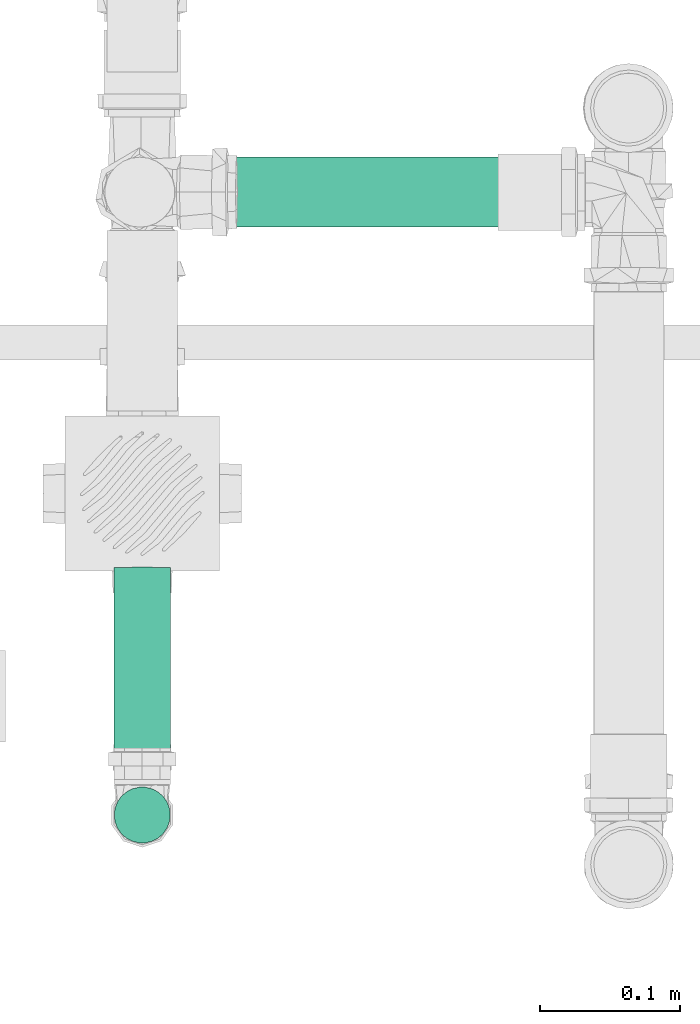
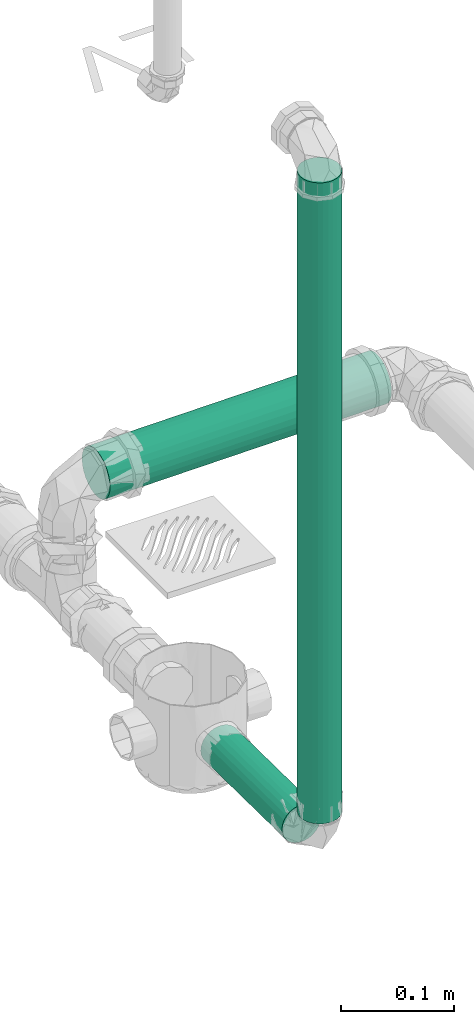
# One storey, part 224 of 589: 3 flow segments.
"""IFC2X3 building model written with IfcOpenShell, lengths in millimetres."""

import ifcopenshell
import ifcopenshell.guid

model = None  # the IFC model being written
_history = None  # IfcOwnerHistory: only IFC2X3 demands one
_inside = {}  # id of a spatial element -> (the spatial element, [elements in it])
_under = {}  # id of a project, library or spatial element -> (it, [spatial elements below it])
_declared = {}  # id of a project -> (the project, [libraries it declares])
_typed = {}  # id of a type object -> (the type object, [elements of that type])
_made_of = {}  # id of a material, layer set ... -> (it, [elements and type objects made of it])


def new_model(schema):
    """Start an empty IFC model of exactly this schema.

    Asked for "IFC4X3", IfcOpenShell would pick the latest addendum, in which some entities
    have other attributes; the version numbers below select the first issue.
    IFC2X3 requires an IfcOwnerHistory on every rooted entity: one is made here for all.
    """
    global model, _history
    if schema == "IFC4X3":
        model = ifcopenshell.file(schema_version=(4, 3, 0, 0))
    else:
        model = ifcopenshell.file(schema=schema)
    _inside.clear()
    _under.clear()
    _declared.clear()
    _typed.clear()
    _made_of.clear()
    _history = None
    if model.schema == "IFC2X3":
        org = make("IfcOrganization", Name="unknown")
        user = make(
            "IfcPersonAndOrganization",
            ThePerson=make("IfcPerson", FamilyName="unknown"),
            TheOrganization=org,
        )
        app = make(
            "IfcApplication",
            ApplicationDeveloper=org,
            Version="unknown",
            ApplicationFullName="unknown",
            ApplicationIdentifier="unknown",
        )
        _history = make(
            "IfcOwnerHistory",
            OwningUser=user,
            OwningApplication=app,
            ChangeAction="ADDED",
            CreationDate=0,
        )
    return model


def make(cls, **values):
    """One entity of the class cls with the attributes given. An attribute that is None is left unset."""
    return model.create_entity(
        cls, **{name: value for name, value in values.items() if value is not None}
    )


def entity(cls, *values):
    """Any entity or typed value of the class cls, its attributes in the order of the schema. None: left unset."""
    e = model.create_entity(cls)
    for i, value in enumerate(values):
        if value is not None:
            e[i] = value
    return e


def rooted(cls, **values):
    """An entity with a GlobalId (a new one), such as an element, a storey or a relation."""
    return make(cls, GlobalId=ifcopenshell.guid.new(), OwnerHistory=_history, **values)


def si_unit(unit_type, name, prefix=None):
    """IfcSIUnit, for example si_unit("LENGTHUNIT", "METRE", prefix="MILLI")."""
    return make("IfcSIUnit", UnitType=unit_type, Prefix=prefix, Name=name)


def converted_unit(unit_type, name, factor, base, dimensions=None, offset=None):
    """IfcConversionBasedUnit, such as the inch: factor (a typed value) times the base unit."""
    return make(
        "IfcConversionBasedUnit"
        if offset is None
        else "IfcConversionBasedUnitWithOffset",
        ConversionOffset=offset,
        Dimensions=None
        if dimensions is None
        else entity("IfcDimensionalExponents", *dimensions),
        UnitType=unit_type,
        Name=name,
        ConversionFactor=make(
            "IfcMeasureWithUnit", ValueComponent=factor, UnitComponent=base
        ),
    )


def derived_unit(unit_type, elements):
    """IfcDerivedUnit: a product of units, each with its exponent."""
    return make(
        "IfcDerivedUnit",
        Elements=[
            make("IfcDerivedUnitElement", Unit=unit, Exponent=power)
            for unit, power in elements
        ],
        UnitType=unit_type,
    )


def assignment(units):
    """IfcUnitAssignment: the units of a project."""
    return None if units is None else make("IfcUnitAssignment", Units=units)


def point(xyz):
    """IfcCartesianPoint."""
    return None if xyz is None else make("IfcCartesianPoint", Coordinates=xyz)


def direction(xyz):
    """IfcDirection."""
    return None if xyz is None else make("IfcDirection", DirectionRatios=xyz)


def frame(location, z_axis=None, x_axis=None):
    """IfcAxis2Placement3D, a coordinate frame: its origin and axes. An axis left out is left unset."""
    return make(
        "IfcAxis2Placement3D",
        Location=point(location),
        Axis=direction(z_axis),
        RefDirection=direction(x_axis),
    )


def frame_2d(location, x_axis=None):
    """IfcAxis2Placement2D, a coordinate frame in the plane: its origin and x axis."""
    return make(
        "IfcAxis2Placement2D", Location=point(location), RefDirection=direction(x_axis)
    )


def origin():
    """The frame at (0, 0, 0) with its axes left unset."""
    return frame((0.0, 0.0, 0.0))


def place(relative_to, where):
    """IfcLocalPlacement: puts the frame where relative to a parent placement (None: the world)."""
    return make(
        "IfcLocalPlacement", PlacementRelTo=relative_to, RelativePlacement=where
    )


def context(
    kind, dimensions, precision=None, world=None, true_north=None, identifier=None
):
    """IfcGeometricRepresentationContext, for example the 3D "Model" context."""
    return make(
        "IfcGeometricRepresentationContext",
        ContextIdentifier=identifier,
        ContextType=kind,
        CoordinateSpaceDimension=dimensions,
        Precision=precision,
        WorldCoordinateSystem=world,
        TrueNorth=true_north,
    )


def subcontext(parent, identifier, kind, view, scale=None):
    """IfcGeometricRepresentationSubContext, for example "Body" below "Model"."""
    return make(
        "IfcGeometricRepresentationSubContext",
        ContextIdentifier=identifier,
        ContextType=kind,
        ParentContext=parent,
        TargetScale=scale,
        TargetView=view,
    )


def project(units=None, contexts=None):
    """IfcProject with its units and contexts."""
    return rooted(
        "IfcProject",
        Name="project",
        RepresentationContexts=contexts,
        UnitsInContext=assignment(units),
    )


def spatial(cls, under=None, at=None, **own):
    """A site, building, storey or space (cls), placed at a placement, below another one or the project."""
    s = rooted(cls, ObjectPlacement=at, **own)
    if under is not None:
        _under.setdefault(under.id(), (under, []))[1].append(s)
    return s


def profile(cls, at=None, kind="AREA", **sizes):
    """A parametric profile (cls). Its sizes go by their IFC names, for example OverallWidth=200.0."""
    return make(cls, ProfileType=kind, Position=at, **sizes)


def circle(**sizes):
    """IfcCircleProfileDef."""
    return profile("IfcCircleProfileDef", **sizes)


def extrude(swept, where, along, depth):
    """IfcExtrudedAreaSolid: the profile swept, set in the frame where, extruded along a direction by depth."""
    return make(
        "IfcExtrudedAreaSolid",
        SweptArea=swept,
        Position=where,
        ExtrudedDirection=direction(along),
        Depth=depth,
    )


def shape(context_of_items, identifier, shape_type, items):
    """IfcShapeRepresentation: the items that make up one representation, for example the "Body"."""
    return make(
        "IfcShapeRepresentation",
        ContextOfItems=context_of_items,
        RepresentationIdentifier=identifier,
        RepresentationType=shape_type,
        Items=items,
    )


def made_of(thing, what):
    """Note that an element or type object is made of a material, layer set ...; save() writes the relation."""
    if what is not None:
        _made_of.setdefault(what.id(), (what, []))[1].append(thing)
    return thing


def type_object(cls, material=None, **own):
    """A type object (cls), such as IfcWallType, which elements share."""
    return made_of(rooted(cls, **own), material)


def element(
    cls,
    number,
    at=None,
    inside=None,
    cuts=None,
    type_object=None,
    material=None,
    context=None,
    identifier="Body",
    shape_type=None,
    held_by="IfcProductDefinitionShape",
    body=None,
    shapes=None,
    **own,
):
    """One element of the class cls, such as IfcWall. Its Tag is "e" and its number.

    at: its placement. inside: the storey or other place that contains it. cuts: it is an
    opening in that element (IfcRelVoidsElement). A single representation is given by context,
    identifier, shape_type and body (its items); several are given by shapes. held_by: the class
    of the entity that holds the representations. save() writes the other relations.
    """
    e = rooted(cls, Tag="e%d" % number, ObjectPlacement=at, **own)
    if body is not None:
        shapes = [shape(context, identifier, shape_type, body)]
    if shapes is not None:
        e.Representation = make(held_by, Representations=shapes)
    if inside is not None:
        _inside.setdefault(inside.id(), (inside, []))[1].append(e)
    if cuts is not None:
        rooted(
            "IfcRelVoidsElement", RelatingBuildingElement=cuts, RelatedOpeningElement=e
        )
    if type_object is not None:
        _typed.setdefault(type_object.id(), (type_object, []))[1].append(e)
    return made_of(e, material)


def aggregate(whole, parts):
    """IfcRelAggregates: a whole, such as a stair, and the parts it consists of."""
    return rooted("IfcRelAggregates", RelatingObject=whole, RelatedObjects=parts)


def save(model, path):
    """Write the relations noted so far, then the file.

    IfcRelAggregates (storeys below a building ...), IfcRelContainedInSpatialStructure (elements
    in a storey), IfcRelDefinesByType, IfcRelAssociatesMaterial and IfcRelDeclares: one each for
    every whole, place, type object, material and project.
    """
    for whole, parts in _under.values():
        aggregate(whole, parts)
    for where, things in _inside.values():
        rooted(
            "IfcRelContainedInSpatialStructure",
            RelatedElements=things,
            RelatingStructure=where,
        )
    for kind, things in _typed.values():
        rooted("IfcRelDefinesByType", RelatedObjects=things, RelatingType=kind)
    for what, things in _made_of.values():
        rooted("IfcRelAssociatesMaterial", RelatedObjects=things, RelatingMaterial=what)
    for by, libraries in _declared.values():
        rooted("IfcRelDeclares", RelatingContext=by, RelatedDefinitions=libraries)
    model.write(path)


model = new_model("IFC2X3")

# Units and contexts
model_context = context("Model", 3, precision=0.01, world=origin(), true_north=direction((6.123031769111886e-17, 1.0)))
body_context = subcontext(model_context, "Body", "Model", "MODEL_VIEW")
ifc_project = project(units=[si_unit("LENGTHUNIT", "METRE", prefix="MILLI"), si_unit("AREAUNIT", "SQUARE_METRE"), si_unit("VOLUMEUNIT", "CUBIC_METRE"), converted_unit("PLANEANGLEUNIT", "DEGREE", entity("IfcRatioMeasure", 0.017453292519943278), si_unit("PLANEANGLEUNIT", "RADIAN"), dimensions=[0, 0, 0, 0, 0, 0, 0]), si_unit("MASSUNIT", "GRAM", prefix="KILO"), derived_unit("MASSDENSITYUNIT", [(si_unit("MASSUNIT", "GRAM", prefix="KILO"), 1), (si_unit("LENGTHUNIT", "METRE"), -3)]), derived_unit("IONCONCENTRATIONUNIT", [(si_unit("MASSUNIT", "GRAM", prefix="KILO"), 1), (si_unit("LENGTHUNIT", "METRE"), -3)]), derived_unit("MOMENTOFINERTIAUNIT", [(si_unit("LENGTHUNIT", "METRE"), 4)]), si_unit("TIMEUNIT", "SECOND"), si_unit("FREQUENCYUNIT", "HERTZ"), si_unit("THERMODYNAMICTEMPERATUREUNIT", "DEGREE_CELSIUS"), derived_unit("THERMALTRANSMITTANCEUNIT", [(si_unit("MASSUNIT", "GRAM", prefix="KILO"), 1), (si_unit("THERMODYNAMICTEMPERATUREUNIT", "KELVIN"), -1), (si_unit("TIMEUNIT", "SECOND"), -3)]), derived_unit("THERMALCONDUCTANCEUNIT", [(si_unit("MASSUNIT", "GRAM", prefix="KILO"), 1), (si_unit("THERMODYNAMICTEMPERATUREUNIT", "KELVIN"), -1), (si_unit("TIMEUNIT", "SECOND"), -3), (si_unit("LENGTHUNIT", "METRE"), 1)]), derived_unit("VOLUMETRICFLOWRATEUNIT", [(si_unit("LENGTHUNIT", "METRE"), 3), (si_unit("TIMEUNIT", "SECOND"), -1)]), derived_unit("MASSFLOWRATEUNIT", [(si_unit("MASSUNIT", "GRAM", prefix="KILO"), 1), (si_unit("TIMEUNIT", "SECOND"), -1)]), derived_unit("ROTATIONALFREQUENCYUNIT", [(si_unit("TIMEUNIT", "SECOND"), -1)]), si_unit("ELECTRICCURRENTUNIT", "AMPERE"), si_unit("ELECTRICVOLTAGEUNIT", "VOLT"), si_unit("POWERUNIT", "WATT"), si_unit("FORCEUNIT", "NEWTON", prefix="KILO"), si_unit("ILLUMINANCEUNIT", "LUX"), si_unit("LUMINOUSFLUXUNIT", "LUMEN"), si_unit("LUMINOUSINTENSITYUNIT", "CANDELA"), derived_unit("USERDEFINED", [(si_unit("MASSUNIT", "GRAM", prefix="KILO"), -1), (si_unit("LENGTHUNIT", "METRE"), -2), (si_unit("TIMEUNIT", "SECOND"), 3), (si_unit("LUMINOUSFLUXUNIT", "LUMEN"), 1)]), derived_unit("USERDEFINED", [(si_unit("MASSUNIT", "GRAM", prefix="KILO"), 1), (si_unit("TIMEUNIT", "SECOND"), -3), (si_unit("LENGTHUNIT", "METRE"), 3), (si_unit("ELECTRICCURRENTUNIT", "AMPERE"), -2)]), derived_unit("SOUNDPOWERUNIT", [(si_unit("MASSUNIT", "GRAM", prefix="KILO"), 1), (si_unit("TIMEUNIT", "SECOND"), -3), (si_unit("LENGTHUNIT", "METRE"), 2)]), derived_unit("SOUNDPRESSUREUNIT", [(si_unit("MASSUNIT", "GRAM", prefix="KILO"), 1), (si_unit("LENGTHUNIT", "METRE"), -1), (si_unit("TIMEUNIT", "SECOND"), -2)]), derived_unit("LINEARVELOCITYUNIT", [(si_unit("LENGTHUNIT", "METRE"), 1), (si_unit("TIMEUNIT", "SECOND"), -1)]), si_unit("PRESSUREUNIT", "PASCAL"), derived_unit("USERDEFINED", [(si_unit("MASSUNIT", "GRAM", prefix="KILO"), 1), (si_unit("LENGTHUNIT", "METRE"), -2), (si_unit("TIMEUNIT", "SECOND"), -2)]), derived_unit("LINEARFORCEUNIT", [(si_unit("MASSUNIT", "GRAM", prefix="KILO"), 1), (si_unit("TIMEUNIT", "SECOND"), -2)]), derived_unit("PLANARFORCEUNIT", [(si_unit("MASSUNIT", "GRAM", prefix="KILO"), 1), (si_unit("LENGTHUNIT", "METRE"), -1), (si_unit("TIMEUNIT", "SECOND"), -2)]), derived_unit("SPECIFICHEATCAPACITYUNIT", [(si_unit("THERMODYNAMICTEMPERATUREUNIT", "KELVIN"), -1), (si_unit("LENGTHUNIT", "METRE"), 2), (si_unit("TIMEUNIT", "SECOND"), -2)]), derived_unit("HEATINGVALUEUNIT", [(si_unit("LENGTHUNIT", "METRE"), 2), (si_unit("TIMEUNIT", "SECOND"), -2)]), derived_unit("VAPORPERMEABILITYUNIT", [(si_unit("LENGTHUNIT", "METRE"), -1), (si_unit("TIMEUNIT", "SECOND"), 1)]), derived_unit("DYNAMICVISCOSITYUNIT", [(si_unit("MASSUNIT", "GRAM", prefix="KILO"), 1), (si_unit("TIMEUNIT", "SECOND"), -1), (si_unit("LENGTHUNIT", "METRE"), -1)]), derived_unit("THERMALEXPANSIONCOEFFICIENTUNIT", [(si_unit("THERMODYNAMICTEMPERATUREUNIT", "KELVIN"), -1)]), derived_unit("MODULUSOFELASTICITYUNIT", [(si_unit("MASSUNIT", "GRAM", prefix="KILO"), 1), (si_unit("LENGTHUNIT", "METRE"), -1), (si_unit("TIMEUNIT", "SECOND"), -2)]), derived_unit("ISOTHERMALMOISTURECAPACITYUNIT", [(si_unit("LENGTHUNIT", "METRE"), 3), (si_unit("MASSUNIT", "GRAM", prefix="KILO"), -1)]), derived_unit("MOISTUREDIFFUSIVITYUNIT", [(si_unit("TIMEUNIT", "SECOND"), -1), (si_unit("LENGTHUNIT", "METRE"), 2)])], contexts=[model_context])

# Site, building, storey
site_placement = place(None, origin())
site = spatial("IfcSite", under=ifc_project, at=site_placement, Name="Default", CompositionType="ELEMENT")
building_placement = place(site_placement, origin())
building = spatial("IfcBuilding", under=site, at=building_placement, CompositionType="ELEMENT")
storey_placement = place(building_placement, frame((0.0, 0.0, 100.0)))
storey = spatial("IfcBuildingStorey", under=building, at=storey_placement, Name="TÉRREO", CompositionType="ELEMENT", Elevation=100.0)

# Flow segments
pipe_segment_type = type_object("IfcPipeSegmentType", Name="Tipos de tubos:PVC Esgoto Série Normal", PredefinedType="NOTDEFINED")
flow_segment_1_placement = place(storey_placement, origin())
element("IfcFlowSegment", 1, at=flow_segment_1_placement, inside=storey, type_object=pipe_segment_type, Name="Tipos de tubos:PVC Esgoto Série Normal", ObjectType="Tipos de tubos:PVC Esgoto Série Normal", context=body_context, shape_type="SweptSolid", body=[
    extrude(circle(Radius=20.0, at=frame_2d((0.0, -1.6918364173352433e-14), x_axis=(1.0, 0.0))), frame((13403.0548188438, -1921.6079482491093, -251.41394173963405), z_axis=(0.0, -0.9999152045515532, 0.01302243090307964), x_axis=(1.0, 0.0, 0.0)), (0.0, 0.0, 1.0), 144.28469816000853),
])
flow_segment_2_placement = place(storey_placement, origin())
element("IfcFlowSegment", 2, at=flow_segment_2_placement, inside=storey, type_object=pipe_segment_type, Name="Tipos de tubos:PVC Esgoto Série Normal", ObjectType="Tipos de tubos:PVC Esgoto Série Normal", context=body_context, shape_type="SweptSolid", body=[
    extrude(circle(Radius=20.0, at=frame_2d((0.0, -2.707167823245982e-13), x_axis=(1.0, 0.0))), frame((13403.054818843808, -2098.2895013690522, -216.70108506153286)), (0.0, 0.0, 1.0), 694.9010850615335),
])
flow_segment_3_placement = place(storey_placement, origin())
element("IfcFlowSegment", 3, at=flow_segment_3_placement, inside=storey, type_object=pipe_segment_type, Name="Tipos de tubos:PVC Esgoto Série Normal", ObjectType="Tipos de tubos:PVC Esgoto Série Normal", context=body_context, shape_type="SweptSolid", body=[
    extrude(circle(Radius=25.0, at=frame_2d((2.707167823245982e-13, -2.5378843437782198e-14), x_axis=(1.0, 0.0))), frame((13430.526617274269, -1653.5587716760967, -129.21164737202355), z_axis=(0.9999663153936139, 0.0, 0.008207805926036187), x_axis=(0.0, -1.0, 0.0)), (0.0, 0.0, 1.0), 288.7164558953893),
])

save(model, "model.ifc")
